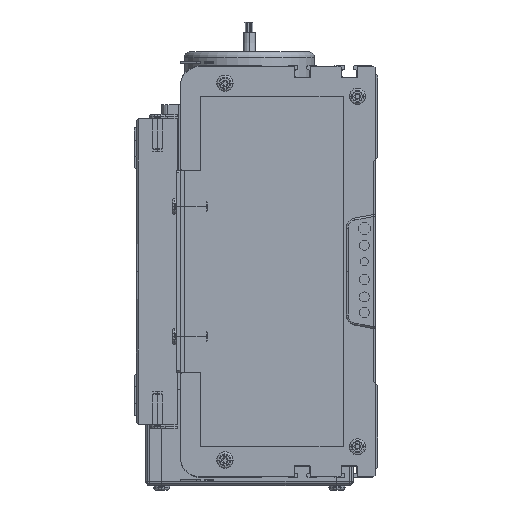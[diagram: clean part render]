
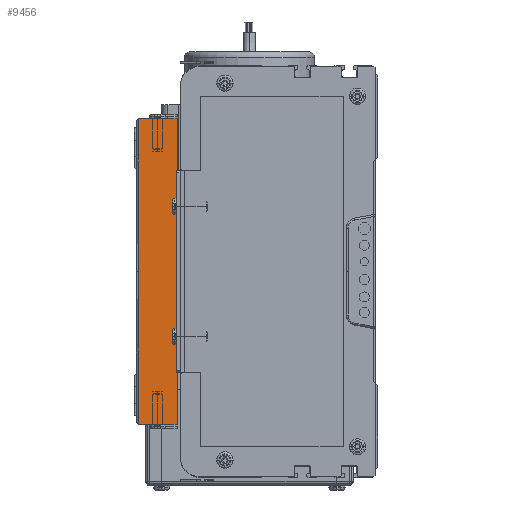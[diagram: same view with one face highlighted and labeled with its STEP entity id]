
A CAD part, left-side view. The second image highlights one B-rep face of the part: STEP entity #9456.
In plain terms, the highlighted planar face has unit normal (-1, 0, 0).
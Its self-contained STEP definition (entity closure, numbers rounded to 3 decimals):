
#4180 = VECTOR ( 'NONE', #4187, 1000. ) ;
#4182 = CARTESIAN_POINT ( 'NONE',  ( 0., 19., 0. ) ) ;
#4187 = DIRECTION ( 'NONE',  ( 0., 0., -1. ) ) ;
#4244 = DIRECTION ( 'NONE',  ( 0., -1., 0. ) ) ;
#4297 = CARTESIAN_POINT ( 'NONE',  ( 0., 20., -75. ) ) ;
#4303 = CARTESIAN_POINT ( 'NONE',  ( 0., 19., 75. ) ) ;
#4375 = VECTOR ( 'NONE', #4244, 1000. ) ;
#4414 = LINE ( 'NONE', #4297, #4375 ) ;
#4505 = LINE ( 'NONE', #4182, #4180 ) ;
#8748 = VERTEX_POINT ( 'NONE', #103613 ) ;
#8897 = VERTEX_POINT ( 'NONE', #103849 ) ;
#9339 = EDGE_CURVE ( 'NONE', #9424, #8748, #4505, .T. ) ;
#9342 = EDGE_CURVE ( 'NONE', #9841, #9545, #4414, .T. ) ;
#9424 = VERTEX_POINT ( 'NONE', #4303 ) ;
#9456 = ADVANCED_FACE ( 'NONE', ( #150801 ), #150859, .F. ) ;
#9460 = ORIENTED_EDGE ( 'NONE', *, *, #9611, .F. ) ;
#9468 = ORIENTED_EDGE ( 'NONE', *, *, #9339, .T. ) ;
#9545 = VERTEX_POINT ( 'NONE', #150426 ) ;
#9559 = EDGE_CURVE ( 'NONE', #9545, #8897, #150448, .T. ) ;
#9611 = EDGE_CURVE ( 'NONE', #9424, #8897, #151601, .T. ) ;
#9665 = EDGE_LOOP ( 'NONE', ( #9460, #9468, #10262, #10054, #10399 ) ) ;
#9841 = VERTEX_POINT ( 'NONE', #151970 ) ;
#9847 = EDGE_CURVE ( 'NONE', #8748, #9841, #152007, .T. ) ;
#10054 = ORIENTED_EDGE ( 'NONE', *, *, #9342, .T. ) ;
#10262 = ORIENTED_EDGE ( 'NONE', *, *, #9847, .T. ) ;
#10399 = ORIENTED_EDGE ( 'NONE', *, *, #9559, .T. ) ;
#103613 = CARTESIAN_POINT ( 'NONE',  ( 0., 19., 0. ) ) ;
#103849 = CARTESIAN_POINT ( 'NONE',  ( 0., 0., 75. ) ) ;
#150235 = AXIS2_PLACEMENT_3D ( 'NONE', #150381, #150499, #150734 ) ;
#150305 = DIRECTION ( 'NONE',  ( 0., 0., 1. ) ) ;
#150308 = VECTOR ( 'NONE', #150305, 1000. ) ;
#150311 = CARTESIAN_POINT ( 'NONE',  ( 0., 0., 0. ) ) ;
#150381 = CARTESIAN_POINT ( 'NONE',  ( 0., 20., 0. ) ) ;
#150426 = CARTESIAN_POINT ( 'NONE',  ( 0., 0., -75. ) ) ;
#150448 = LINE ( 'NONE', #150311, #150308 ) ;
#150499 = DIRECTION ( 'NONE',  ( 1., 0., 0. ) ) ;
#150734 = DIRECTION ( 'NONE',  ( 0., 0., -1. ) ) ;
#150801 = FACE_OUTER_BOUND ( 'NONE', #9665, .T. ) ;
#150859 = PLANE ( 'NONE',  #150235 ) ;
#151407 = DIRECTION ( 'NONE',  ( 0., -1., 0. ) ) ;
#151596 = VECTOR ( 'NONE', #151407, 1000. ) ;
#151599 = CARTESIAN_POINT ( 'NONE',  ( 0., 20., 75. ) ) ;
#151601 = LINE ( 'NONE', #151599, #151596 ) ;
#151935 = DIRECTION ( 'NONE',  ( 0., 0., -1. ) ) ;
#151936 = VECTOR ( 'NONE', #151935, 1000. ) ;
#151970 = CARTESIAN_POINT ( 'NONE',  ( 0., 19., -75. ) ) ;
#152006 = CARTESIAN_POINT ( 'NONE',  ( 0., 19., 0. ) ) ;
#152007 = LINE ( 'NONE', #152006, #151936 ) ;
